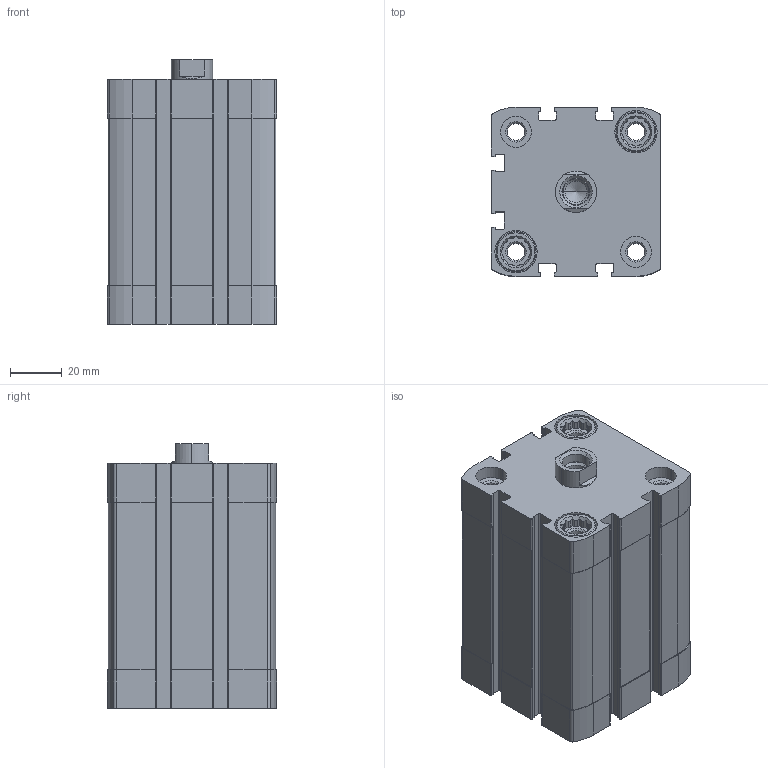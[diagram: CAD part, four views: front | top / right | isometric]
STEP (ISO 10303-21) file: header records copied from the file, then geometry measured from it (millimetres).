
FILE_DESCRIPTION (( 'STEP AP203' ), '1' );
FILE_NAME ('CCN50-50F.STEP', '2017-04-03T15:53:00', ( '' ), ( '' ), 'SwSTEP 2.0', 'SolidWorks 2016', '' );
FILE_SCHEMA (( 'CONFIG_CONTROL_DESIGN' ));
Length unit declared in the file: millimetre
Products named in the file (3): CCN-50---(Z); CCN-50_(KS); CCN50-50F
Assembly tree (2 placements, depth 2):
  CCN50-50F
    CCN-50---(Z)
    CCN-50_(KS)
Bounding box: 65.5 x 65.5 x 102.7 mm (x, y, z)
Volume: 275187.7 mm3; surface area: 75412.1 mm2
Topology: 2 solids, 2 shells, 471 faces, 1270 edges, 833 vertices
Faces by surface type: plane 219, cylinder 210, cone 42
Entity records: 15269 total; most frequent: CARTESIAN_POINT 2871, DIRECTION 2588, ORIENTED_EDGE 2536, EDGE_CURVE 1268, AXIS2_PLACEMENT_3D 942, VERTEX_POINT 833, LINE 704, VECTOR 704
